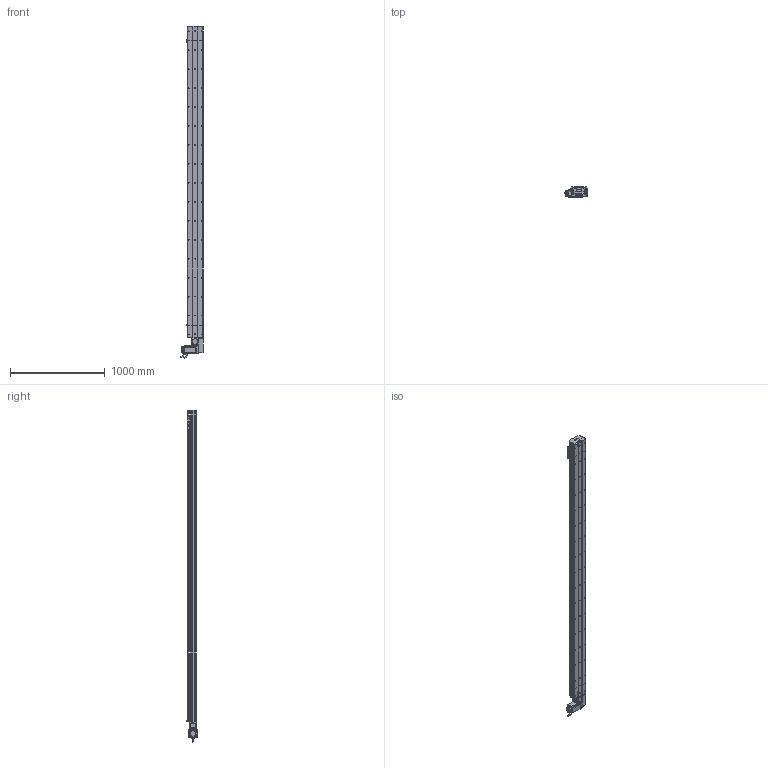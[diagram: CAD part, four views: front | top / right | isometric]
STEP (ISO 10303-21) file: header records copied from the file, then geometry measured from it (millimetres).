
FILE_DESCRIPTION (( 'STEP AP214' ), '1' );
FILE_NAME ('D17 TBH LH S3000.STEP', '2010-06-30T09:01:08', ( 'Christophe Gaillard' ), ( 'SGA' ), 'SwSTEP 2.0', 'SolidWorks 2010', '' );
FILE_SCHEMA (( 'AUTOMOTIVE_DESIGN' ));
Length unit declared in the file: millimetre
Products named in the file (40): Rail D17B; Chariot D17; chariot D17S_Default; poulie tail_Default; Couroie tail D17B_Default; poulie head_Default; cache arbre D17_Default; couroie head D17_Default; Renvoi LH_Default; couvercle D17B_Default; vis M5 L8 90°_Default; vis M5 L25_Default; Couroie+ rail D17 Course 3000 ; corp D17B 3000_Default; couvercle D17B course L3000_Default; Head LH D17B_Default; corpl head D17 _Default; D17 TBH LH S3000; plaque de  bout tail D17B_Default; course 3000 D17B_Default; couvercle D17B head_Default; vis M5 L12_Default; guide D17; plaque de  bout head D17B LH_Default; Arbre+rail head D17B; cache D17_Default; vis M5 L5_Default; Moteur motionking 90BLDC125A-640; avant 90BLDC125A-640; corps 90BLDC125A-640; codeur 90BLDC125-640; tete d''axe poulie D17B; corpl tail D17B_Default; Tail D17B_Default; Vis M5 L16-2_Default; vis M5 L16_Default; Plaque racord D17_Default; vis M5 L70_Default; Conecteur_Default; Conecteur2_Default
Assembly tree (70 placements, depth 4):
  D17 TBH LH S3000
    course 3000 D17B_Default
      couvercle D17B course L3000_Default
      corp D17B 3000_Default
      Couroie+ rail D17 Course 3000 
    chariot D17S_Default
      guide D17  x2
      vis M5 L12_Default  x4
      Chariot D17
    Tail D17B_Default
      vis M5 L8 90°_Default  x2
      vis M5 L25_Default  x2
      poulie tail_Default
      Rail D17B
      vis M5 L12_Default  x4
      corpl tail D17B_Default
      tete d''axe poulie D17B
      plaque de  bout tail D17B_Default
      couvercle D17B_Default
      Couroie tail D17B_Default
    Head LH D17B_Default
      vis M5 L12_Default  x8
      vis M5 L25_Default  x2
      Renvoi LH_Default
      vis M5 L70_Default  x4
      cache D17_Default  x2
      Vis M5 L16-2_Default  x4
      poulie head_Default
      Moteur motionking 90BLDC125A-640
        codeur 90BLDC125-640
        avant 90BLDC125A-640
        Conecteur2_Default
        corps 90BLDC125A-640
        Conecteur_Default
      vis M5 L16_Default  x2
      vis M5 L5_Default  x4
      Plaque racord D17_Default
      corpl head D17 _Default
      couroie head D17_Default
      Arbre+rail head D17B
      couvercle D17B head_Default
      plaque de  bout head D17B LH_Default
      cache arbre D17_Default
Bounding box: 245.2 x 105.65 x 3500.95 mm (x, y, z)
Volume: 19462164.5 mm3; surface area: 5671533.9 mm2
Topology: 94 solids, 94 shells, 2773 faces, 7085 edges, 4558 vertices
Faces by surface type: plane 1607, cylinder 853, bspline 136, cone 88, torus 85, sphere 4
Entity records: 87792 total; most frequent: CARTESIAN_POINT 25729, ORIENTED_EDGE 10942, DIRECTION 10364, EDGE_CURVE 5471, VERTEX_POINT 3582, LINE 3550, VECTOR 3550, AXIS2_PLACEMENT_3D 3407
